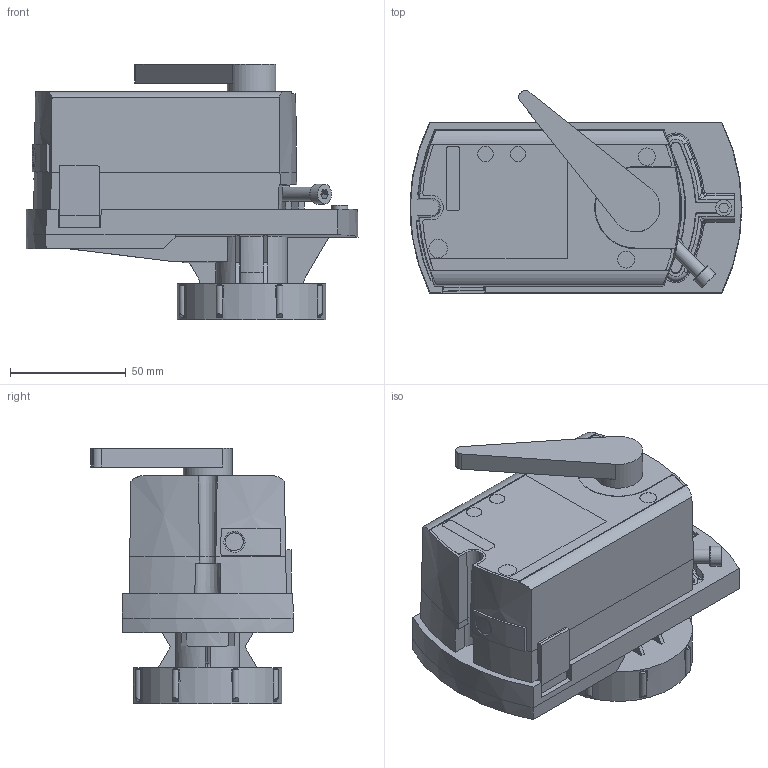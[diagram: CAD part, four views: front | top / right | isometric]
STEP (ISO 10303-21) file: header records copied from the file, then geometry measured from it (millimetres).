
FILE_DESCRIPTION(/* description */ (''),/* implementation_level */ '2;1');
FILE_NAME(/* name */ 'GDBGLB..9A.stp',/* time_stamp */ '2015-01-05T16:07:54+01:00',/* author */ (''),/* organization */ (''),/* preprocessor_version */ 'ST-DEVELOPER v15',/* originating_system */ 'SIEMENS PLM Software NX 8.5',/* authorisation */ '');
FILE_SCHEMA (('AUTOMOTIVE_DESIGN { 1 0 10303 214 3 1 1 1 }'));
Length unit declared in the file: millimetre
Products named in the file (1): 8000077190_01
Bounding box: 143.15 x 87.31 x 109.95 mm (x, y, z)
Volume: 537549 mm3; surface area: 69260 mm2
Topology: 1 solids, 2 shells, 423 faces, 1152 edges, 764 vertices
Faces by surface type: plane 227, cylinder 96, cone 62, bspline 29, torus 7, extrusion 2
Full cylindrical faces by diameter (mm): 4 x1, 5.3 x4, 6 x1, 6.6 x2, 7 x1, 7.3 x1, 7.4 x1, 7.9 x1, 8.5 x1, 21 x1, 29.95 x1, 64 x1
Entity records: 17012 total; most frequent: CARTESIAN_POINT 4145, ORIENTED_EDGE 2230, DIRECTION 2013, EDGE_CURVE 1115, VERTEX_POINT 756, AXIS2_PLACEMENT_3D 699, VECTOR 615, LINE 613
